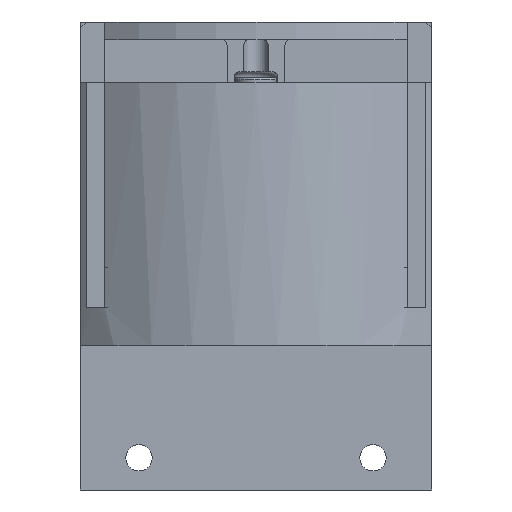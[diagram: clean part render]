
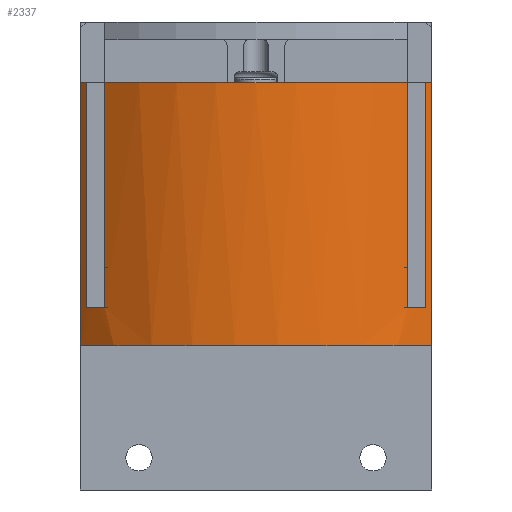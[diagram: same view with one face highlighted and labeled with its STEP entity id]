
A CAD part, front view. The second image highlights one B-rep face of the part: STEP entity #2337.
In plain terms, the highlighted cylindrical face has radius 43.5 mm (diameter 87 mm), a partial arc.
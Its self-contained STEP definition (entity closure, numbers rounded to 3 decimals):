
#128=CYLINDRICAL_SURFACE('',#2629,43.5);
#158=CIRCLE('',#2585,43.5);
#161=CIRCLE('',#2590,43.5);
#164=CIRCLE('',#2597,43.5);
#165=CIRCLE('',#2598,43.5);
#174=CIRCLE('',#2626,43.5);
#175=CIRCLE('',#2630,43.5);
#272=FACE_OUTER_BOUND('',#405,.T.);
#405=EDGE_LOOP('',(#1688,#1689,#1690,#1691,#1692,#1693,#1694,#1695,#1696,
#1697,#1698,#1699));
#535=LINE('',#3535,#760);
#541=LINE('',#3547,#766);
#565=LINE('',#3615,#790);
#593=LINE('',#3691,#818);
#594=LINE('',#3693,#819);
#596=LINE('',#3696,#821);
#760=VECTOR('',#2828,10.);
#766=VECTOR('',#2836,10.);
#790=VECTOR('',#2894,10.);
#818=VECTOR('',#2976,10.);
#819=VECTOR('',#2979,10.);
#821=VECTOR('',#2983,10.);
#984=VERTEX_POINT('',#3531);
#986=VERTEX_POINT('',#3534);
#989=VERTEX_POINT('',#3541);
#991=VERTEX_POINT('',#3545);
#994=VERTEX_POINT('',#3553);
#1000=VERTEX_POINT('',#3570);
#1008=VERTEX_POINT('',#3590);
#1009=VERTEX_POINT('',#3592);
#1012=VERTEX_POINT('',#3599);
#1013=VERTEX_POINT('',#3601);
#1018=VERTEX_POINT('',#3613);
#1039=VERTEX_POINT('',#3687);
#1209=EDGE_CURVE('',#986,#984,#535,.T.);
#1215=EDGE_CURVE('',#989,#991,#541,.T.);
#1219=EDGE_CURVE('',#994,#984,#158,.T.);
#1227=EDGE_CURVE('',#989,#1000,#161,.T.);
#1238=EDGE_CURVE('',#1009,#1008,#164,.T.);
#1243=EDGE_CURVE('',#1013,#1012,#165,.T.);
#1250=EDGE_CURVE('',#1008,#1018,#565,.T.);
#1287=EDGE_CURVE('',#1039,#1018,#174,.T.);
#1288=EDGE_CURVE('',#994,#1009,#593,.T.);
#1289=EDGE_CURVE('',#1012,#1000,#594,.T.);
#1291=EDGE_CURVE('',#1039,#1013,#596,.T.);
#1292=EDGE_CURVE('',#986,#991,#175,.T.);
#1688=ORIENTED_EDGE('',*,*,#1209,.T.);
#1689=ORIENTED_EDGE('',*,*,#1219,.F.);
#1690=ORIENTED_EDGE('',*,*,#1288,.T.);
#1691=ORIENTED_EDGE('',*,*,#1238,.T.);
#1692=ORIENTED_EDGE('',*,*,#1250,.T.);
#1693=ORIENTED_EDGE('',*,*,#1287,.F.);
#1694=ORIENTED_EDGE('',*,*,#1291,.T.);
#1695=ORIENTED_EDGE('',*,*,#1243,.T.);
#1696=ORIENTED_EDGE('',*,*,#1289,.T.);
#1697=ORIENTED_EDGE('',*,*,#1227,.F.);
#1698=ORIENTED_EDGE('',*,*,#1215,.T.);
#1699=ORIENTED_EDGE('',*,*,#1292,.F.);
#2337=ADVANCED_FACE('',(#272),#128,.T.);
#2585=AXIS2_PLACEMENT_3D('',#3555,#2842,#2843);
#2590=AXIS2_PLACEMENT_3D('',#3571,#2857,#2858);
#2597=AXIS2_PLACEMENT_3D('',#3593,#2877,#2878);
#2598=AXIS2_PLACEMENT_3D('',#3602,#2883,#2884);
#2626=AXIS2_PLACEMENT_3D('',#3689,#2972,#2973);
#2629=AXIS2_PLACEMENT_3D('',#3695,#2981,#2982);
#2630=AXIS2_PLACEMENT_3D('',#3697,#2984,#2985);
#2828=DIRECTION('',(0.,0.,-1.));
#2836=DIRECTION('',(0.,0.,1.));
#2842=DIRECTION('center_axis',(0.,0.,-1.));
#2843=DIRECTION('ref_axis',(0.702,0.713,0.));
#2857=DIRECTION('center_axis',(0.,0.,-1.));
#2858=DIRECTION('ref_axis',(0.702,0.713,0.));
#2877=DIRECTION('center_axis',(0.,0.,1.));
#2878=DIRECTION('ref_axis',(0.702,0.713,0.));
#2883=DIRECTION('center_axis',(0.,0.,1.));
#2884=DIRECTION('ref_axis',(0.702,0.713,0.));
#2894=DIRECTION('',(0.,0.,-1.));
#2972=DIRECTION('center_axis',(0.,0.,-1.));
#2973=DIRECTION('ref_axis',(0.702,0.713,0.));
#2976=DIRECTION('',(0.,0.,1.));
#2979=DIRECTION('',(0.,0.,-1.));
#2981=DIRECTION('center_axis',(0.,0.,1.));
#2982=DIRECTION('ref_axis',(0.702,0.713,0.));
#2983=DIRECTION('',(0.,0.,1.));
#2984=DIRECTION('center_axis',(0.,0.,1.));
#2985=DIRECTION('ref_axis',(0.702,0.713,0.));
#3531=CARTESIAN_POINT('',(30.016,0.484,-22.5));
#3534=CARTESIAN_POINT('',(30.016,0.484,22.5));
#3535=CARTESIAN_POINT('',(30.016,0.484,0.));
#3541=CARTESIAN_POINT('',(-30.016,0.484,-22.5));
#3545=CARTESIAN_POINT('',(-30.016,0.484,22.5));
#3547=CARTESIAN_POINT('',(-30.016,0.484,0.));
#3553=CARTESIAN_POINT('',(28.914,1.5,-22.5));
#3555=CARTESIAN_POINT('Origin',(0.,-31.,-22.5));
#3570=CARTESIAN_POINT('',(-28.914,1.5,-22.5));
#3571=CARTESIAN_POINT('Origin',(0.,-31.,-22.5));
#3590=CARTESIAN_POINT('',(25.831,4.,16.));
#3592=CARTESIAN_POINT('',(28.914,1.5,16.));
#3593=CARTESIAN_POINT('Origin',(0.,-31.,16.));
#3599=CARTESIAN_POINT('',(-28.914,1.5,16.));
#3601=CARTESIAN_POINT('',(-25.831,4.,16.));
#3602=CARTESIAN_POINT('Origin',(0.,-31.,16.));
#3613=CARTESIAN_POINT('',(25.831,4.,-22.5));
#3615=CARTESIAN_POINT('',(25.831,4.,0.));
#3687=CARTESIAN_POINT('',(-25.831,4.,-22.5));
#3689=CARTESIAN_POINT('Origin',(0.,-31.,-22.5));
#3691=CARTESIAN_POINT('',(28.914,1.5,0.));
#3693=CARTESIAN_POINT('',(-28.914,1.5,0.));
#3695=CARTESIAN_POINT('Origin',(0.,-31.,0.));
#3696=CARTESIAN_POINT('',(-25.831,4.,0.));
#3697=CARTESIAN_POINT('Origin',(0.,-31.,22.5));
